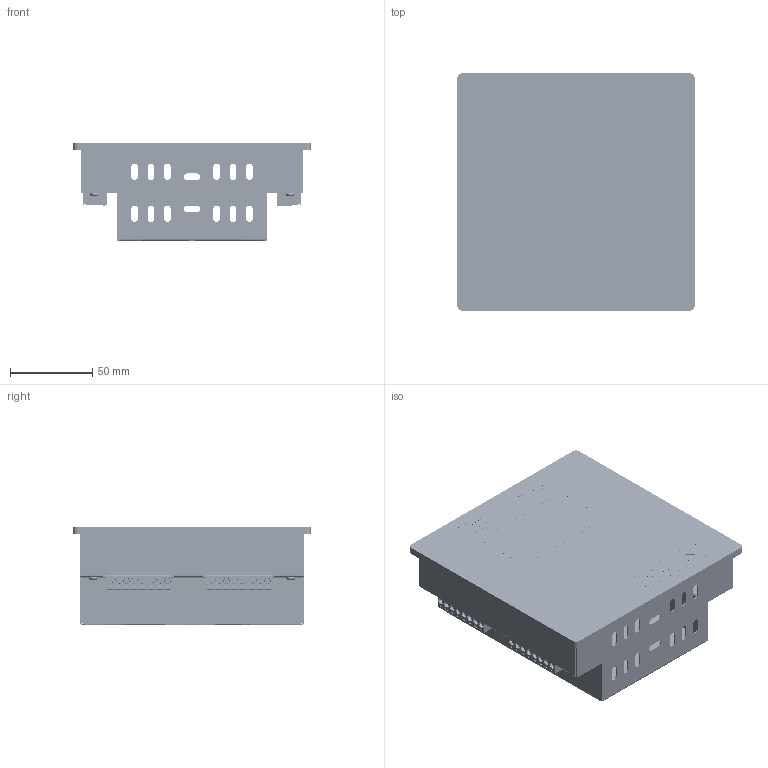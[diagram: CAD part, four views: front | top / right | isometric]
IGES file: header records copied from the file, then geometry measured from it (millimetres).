
Start section: SolidWorks IGES file using analytic representation for surfaces
Global section: file name: Q:\GROUPS\WAU_JGS_CAPACITORES\ENGENHARIA\DESENHOS\Desenhos para EASY Correção Fator de potencia (Thays)\Controlador de fator de potência\3D\PFWD01-M12.IGS; native system: SolidWorks 2022; preprocessor: SolidWorks 2022; author: thaysr; date: 240806.134829; units: millimetre
Bounding box: 144.6 x 144.6 x 60.29 mm (x, y, z)
Surface area: 149354 mm2 (no closed solid volume)
Topology: 0 solids, 0 shells, 3833 faces, 29047 edges, 29037 vertices
Faces by surface type: bspline 2941, revolution 892
